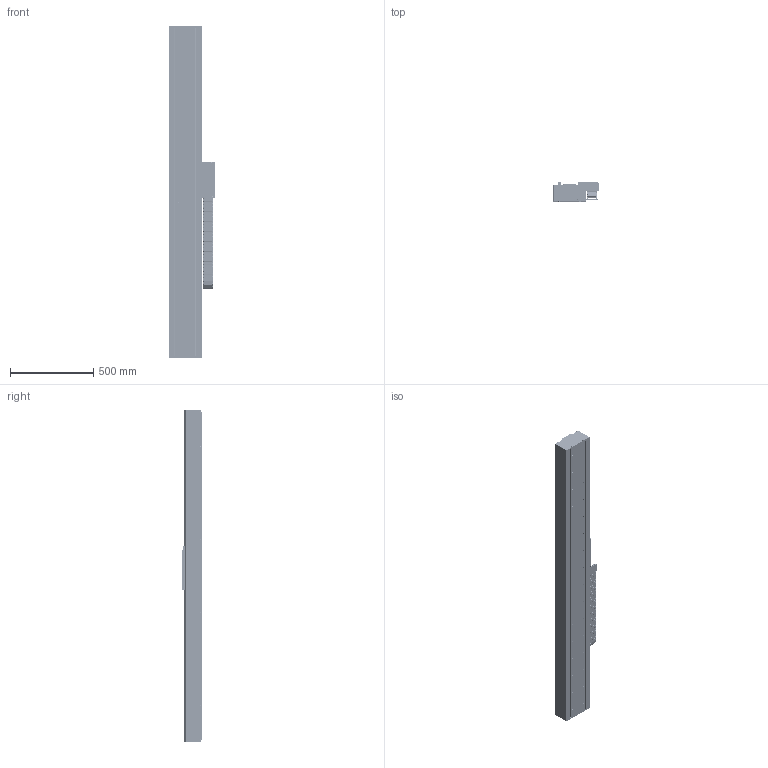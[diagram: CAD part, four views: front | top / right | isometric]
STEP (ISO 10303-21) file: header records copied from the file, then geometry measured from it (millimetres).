
FILE_DESCRIPTION (( 'STEP AP203' ), '1' );
FILE_NAME ('STF50200L-xC1B-Bxx.STEP', '2007-10-29T14:05:58', ( 'Yaskawa' ), ( 'Yaskawa' ), 'SwSTEP 2.0', 'SolidWorks 2007', '' );
FILE_SCHEMA (( 'CONFIG_CONTROL_DESIGN' ));
Products named in the file (57): Large Bumper; STF50-007 End Stop; SSR20W Block; STCM-R1; STF50-003 Renishaw Encoder Bracket; STCM-001-R2 Cable Bracket; STCM-002-R2 Cable Assembly Front; STF50-006 Endplate; Serial Converter; STF50-009-03 Top Cover_L; 07.50.038.0_27; 07.50.038.0_28; 07.50.038.0_26; 07.50.038.0_36; 07.50.038.0_29; 07.50.038.0_37; 07.50.038.0_38; 07.50.038.0_43; 07.50.038.0_44; STF50200L-xC1B-Bxx; STF50200 Base_STF50BM-011; SGLFM-50945AC; STF50 Large End Stop; SSR20 Rail 820_1900; STF50-0200-R1 Carriage; STF50-001A F50-200 Carriage; SGLFW-50A200AP; STF50-004 Flag; STF50-002A-R1 F50-200 Carriage Horn; RGH22B; STF50-005-R2 Cable Router; STCM-003 Cable Assembly Bottom; STCM-004 Cable Assembly Side; STCM-005-R1 Cable Assembly Cover; STCM-006-R1 Upper E-chain Bracket; STF50-10-03 Side COver_L; STCM-007 Lower E-Chain Bracket; STF50200L; 07.50.038.0_20; 07.50.038.0_21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
Assembly tree (98 placements, depth 4):
  STF50200L-xC1B-Bxx
    STCM-007 Lower E-Chain Bracket
    STF50 Large End Stop  x4
      STF50-007 End Stop
      Large Bumper
    STF50-009-03 Top Cover_L
    STF50-006 Endplate  x2
    SSR20 Rail 820_1900  x2
    STF50-0200-R1 Carriage
      SSR20W Block  x4
      SGLFW-50A200AP
      RGH22B
      STF50-004 Flag
      STF50-002A-R1 F50-200 Carriage Horn  x2
      STF50-005-R2 Cable Router
      STF50-001A F50-200 Carriage
      STCM-R1
        STCM-003 Cable Assembly Bottom
        Serial Converter
        STCM-001-R2 Cable Bracket
        STCM-006-R1 Upper E-chain Bracket
        STCM-005-R1 Cable Assembly Cover
        STCM-002-R2 Cable Assembly Front
        STCM-004 Cable Assembly Side
      STF50-003 Renishaw Encoder Bracket
    SGLFM-50945AC  x2
    STF50200 Base_STF50BM-011
    STF50-10-03 Side COver_L  x2
    STF50200L
      07.50.038.0_23
      07.50.038.0_41
      07.50.038.0_32  x17
      07.50.038.0_31  x16
      07.50.038.0_21
      07.50.038.0_34
      07.50.038.0_22
      07.50.038.0_39
      07.50.038.0_44
      07.50.038.0_27
      07.50.038.0_47
      07.50.038.0_37
      07.50.038.0_30
      07.50.038.0_24
      07.50.038.0_26
      07.50.038.0_42
      07.50.038.0_35
      07.50.038.0_40
      07.50.038.0_43
      07.50.038.0_45
      07.50.038.0_29
      07.50.038.0_46
      07.50.038.0_20
      07.50.038.0_28
      07.50.038.0_38
      07.50.038.0_25
      07.50.038.0_33
      07.50.038.0_36
Bounding box: 272.91 x 115 x 1999.05 mm (x, y, z)
Volume: 16584283 mm3; surface area: 4606863.7 mm2
Topology: 154 solids, 154 shells, 7446 faces, 19673 edges, 12608 vertices
Faces by surface type: plane 3745, cylinder 3165, cone 520, bspline 8, torus 8
Entity records: 142671 total; most frequent: DIRECTION 24266, CARTESIAN_POINT 23605, ORIENTED_EDGE 22372, EDGE_CURVE 11186, AXIS2_PLACEMENT_3D 8635, VERTEX_POINT 7322, VECTOR 6996, LINE 6996
